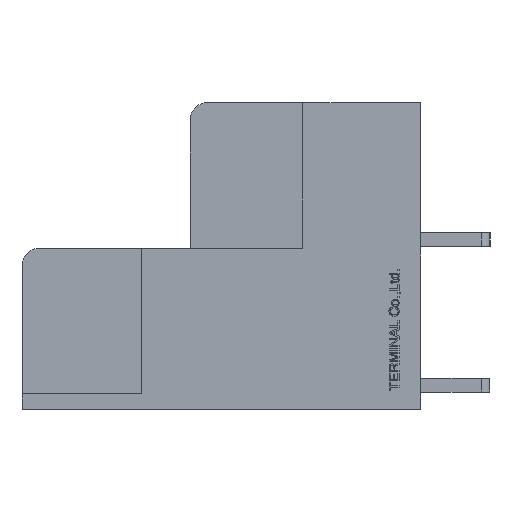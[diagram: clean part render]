
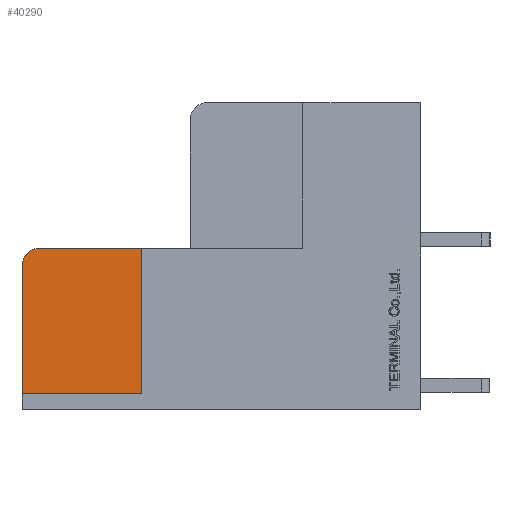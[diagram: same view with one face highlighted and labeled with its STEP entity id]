
A CAD part, left-side view. The second image highlights one B-rep face of the part: STEP entity #40290.
In plain terms, the highlighted planar face has unit normal (-1, 0, 0).
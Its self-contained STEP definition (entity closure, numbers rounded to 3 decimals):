
#521=CIRCLE('',#42846,1.);
#2636=VERTEX_POINT('',#55284);
#2637=VERTEX_POINT('',#55285);
#2640=VERTEX_POINT('',#55293);
#2644=VERTEX_POINT('',#55302);
#2645=VERTEX_POINT('',#55304);
#6722=VECTOR('',#45980,1.);
#6726=VECTOR('',#45985,1.);
#6735=VECTOR('',#46002,1.);
#6736=VECTOR('',#46003,1.);
#11192=LINE('',#55283,#6722);
#11196=LINE('',#55292,#6726);
#11205=LINE('',#55315,#6735);
#11206=LINE('',#55316,#6736);
#15760=EDGE_CURVE('',#2636,#2637,#11192,.T.);
#15764=EDGE_CURVE('',#2640,#2636,#11196,.T.);
#15769=EDGE_CURVE('',#2644,#2645,#521,.T.);
#15775=EDGE_CURVE('',#2645,#2637,#11205,.T.);
#15776=EDGE_CURVE('',#2640,#2644,#11206,.T.);
#22511=ORIENTED_EDGE('',*,*,#15760,.T.);
#22512=ORIENTED_EDGE('',*,*,#15775,.F.);
#22513=ORIENTED_EDGE('',*,*,#15769,.F.);
#22514=ORIENTED_EDGE('',*,*,#15776,.F.);
#22515=ORIENTED_EDGE('',*,*,#15764,.T.);
#34478=EDGE_LOOP('',(#22511,#22512,#22513,#22514,#22515));
#37386=FACE_BOUND('',#34478,.T.);
#40290=ADVANCED_FACE('',(#37386),#80320,.F.);
#42846=AXIS2_PLACEMENT_3D('',#55303,#45993,#45994);
#42848=AXIS2_PLACEMENT_3D('',#55314,#46001,$);
#45980=DIRECTION('',(0.,0.,1.));
#45985=DIRECTION('',(0.,-1.,0.));
#45993=DIRECTION('',(1.,0.,0.));
#45994=DIRECTION('',(0.,0.,-1.));
#46001=DIRECTION('',(1.,0.,0.));
#46002=DIRECTION('',(0.,-1.,0.));
#46003=DIRECTION('',(0.,0.,1.));
#55283=CARTESIAN_POINT('',(0.75,16.1,4.859));
#55284=CARTESIAN_POINT('',(0.75,16.1,0.9));
#55285=CARTESIAN_POINT('',(0.75,16.1,9.3));
#55292=CARTESIAN_POINT('',(0.75,15.486,0.9));
#55293=CARTESIAN_POINT('',(0.75,23.,0.9));
#55302=CARTESIAN_POINT('',(0.75,23.,8.3));
#55303=CARTESIAN_POINT('',(0.75,22.,8.3));
#55304=CARTESIAN_POINT('',(0.75,22.,9.3));
#55314=CARTESIAN_POINT('',(0.75,11.422,4.617));
#55315=CARTESIAN_POINT('',(0.75,22.,9.3));
#55316=CARTESIAN_POINT('',(0.75,23.,0.));
#80320=PLANE('',#42848);
